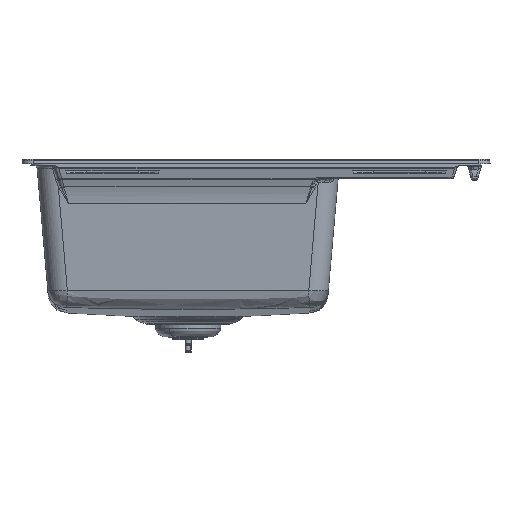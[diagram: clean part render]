
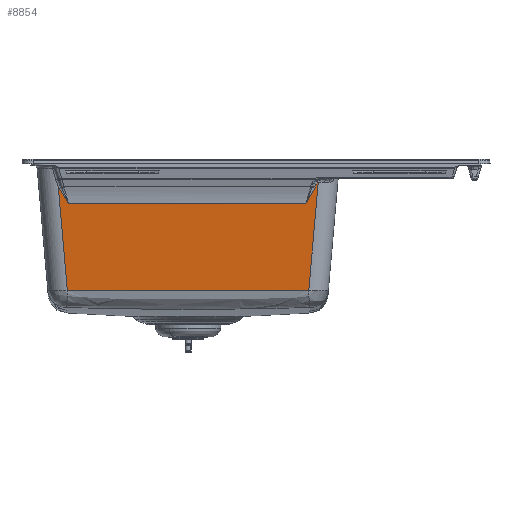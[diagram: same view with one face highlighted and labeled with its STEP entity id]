
A CAD part, left-side view. The second image highlights one B-rep face of the part: STEP entity #8854.
In plain terms, the highlighted planar face has unit normal (-0.996, 0, -0.087).
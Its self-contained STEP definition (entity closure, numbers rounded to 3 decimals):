
#2958=(
BOUNDED_CURVE()
B_SPLINE_CURVE(2,(#54219,#54220,#54221),.UNSPECIFIED.,.F.,.F.)
B_SPLINE_CURVE_WITH_KNOTS((3,3),(0.,3.116),.UNSPECIFIED.)
CURVE()
GEOMETRIC_REPRESENTATION_ITEM()
RATIONAL_B_SPLINE_CURVE((1.,0.999,1.))
REPRESENTATION_ITEM('')
);
#2959=(
BOUNDED_CURVE()
B_SPLINE_CURVE(2,(#54222,#54223,#54224),.UNSPECIFIED.,.F.,.F.)
B_SPLINE_CURVE_WITH_KNOTS((3,3),(0.,3.733),.UNSPECIFIED.)
CURVE()
GEOMETRIC_REPRESENTATION_ITEM()
RATIONAL_B_SPLINE_CURVE((1.,0.998,1.))
REPRESENTATION_ITEM('')
);
#2960=(
BOUNDED_CURVE()
B_SPLINE_CURVE(2,(#54225,#54226,#54227),.UNSPECIFIED.,.F.,.F.)
B_SPLINE_CURVE_WITH_KNOTS((3,3),(0.,1.401),.UNSPECIFIED.)
CURVE()
GEOMETRIC_REPRESENTATION_ITEM()
RATIONAL_B_SPLINE_CURVE((1.,1.,1.))
REPRESENTATION_ITEM('')
);
#8854=ADVANCED_FACE('',(#10739),#35262,.T.);
#10739=FACE_OUTER_BOUND('',#12651,.T.);
#12651=EDGE_LOOP('',(#16209,#16210,#16211,#16212,#16213,#16214,#16215,#16216,
#16217,#16218,#16219,#16220));
#16209=ORIENTED_EDGE('',*,*,#25152,.T.);
#16210=ORIENTED_EDGE('',*,*,#25108,.F.);
#16211=ORIENTED_EDGE('',*,*,#25123,.F.);
#16212=ORIENTED_EDGE('',*,*,#24878,.F.);
#16213=ORIENTED_EDGE('',*,*,#24846,.T.);
#16214=ORIENTED_EDGE('',*,*,#24850,.T.);
#16215=ORIENTED_EDGE('',*,*,#24853,.T.);
#16216=ORIENTED_EDGE('',*,*,#25153,.T.);
#16217=ORIENTED_EDGE('',*,*,#25154,.T.);
#16218=ORIENTED_EDGE('',*,*,#24793,.T.);
#16219=ORIENTED_EDGE('',*,*,#25155,.F.);
#16220=ORIENTED_EDGE('',*,*,#24796,.T.);
#24793=EDGE_CURVE('',#32389,#32390,#29664,.T.);
#24796=EDGE_CURVE('',#32393,#32394,#29665,.T.);
#24846=EDGE_CURVE('',#32425,#32428,#29691,.T.);
#24850=EDGE_CURVE('',#32428,#32430,#29693,.T.);
#24853=EDGE_CURVE('',#32430,#32392,#29695,.T.);
#24878=EDGE_CURVE('',#32425,#32444,#29707,.T.);
#25108=EDGE_CURVE('',#32559,#32396,#29830,.T.);
#25123=EDGE_CURVE('',#32444,#32559,#29833,.T.);
#25152=EDGE_CURVE('',#32394,#32396,#2958,.T.);
#25153=EDGE_CURVE('',#32392,#32387,#2959,.T.);
#25154=EDGE_CURVE('',#32387,#32389,#2960,.T.);
#25155=EDGE_CURVE('',#32393,#32390,#29853,.T.);
#29664=B_SPLINE_CURVE_WITH_KNOTS('',3,(#52622,#52623,#52624,#52625,#52626,
#52627),.UNSPECIFIED.,.F.,.F.,(4,2,4),(-2.348,0.,
0.004),.UNSPECIFIED.);
#29665=B_SPLINE_CURVE_WITH_KNOTS('',3,(#52634,#52635,#52636,#52637,#52638,
#52639),.UNSPECIFIED.,.F.,.F.,(4,2,4),(-2.376,-2.372,
0.),.UNSPECIFIED.);
#29691=B_SPLINE_CURVE_WITH_KNOTS('',3,(#52810,#52811,#52812,#52813),
 .UNSPECIFIED.,.F.,.F.,(4,4),(-0.362,0.),.UNSPECIFIED.);
#29693=B_SPLINE_CURVE_WITH_KNOTS('',3,(#52824,#52825,#52826,#52827),
 .UNSPECIFIED.,.F.,.F.,(4,4),(-0.633,0.),.UNSPECIFIED.);
#29695=B_SPLINE_CURVE_WITH_KNOTS('',3,(#52835,#52836,#52837,#52838),
 .UNSPECIFIED.,.F.,.F.,(4,4),(-3.101,0.),.UNSPECIFIED.);
#29707=B_SPLINE_CURVE_WITH_KNOTS('',1,(#52904,#52905),.UNSPECIFIED.,.F.,
 .F.,(2,2),(0.,144.049),.UNSPECIFIED.);
#29830=B_SPLINE_CURVE_WITH_KNOTS('',1,(#54020,#54021),.UNSPECIFIED.,.F.,
 .F.,(2,2),(0.,139.002),.UNSPECIFIED.);
#29833=B_SPLINE_CURVE_WITH_KNOTS('',3,(#54062,#54063,#54064,#54065,#54066,
#54067),.UNSPECIFIED.,.F.,.F.,(4,1,1,4),(0.,91.403,182.805,
319.909),.UNSPECIFIED.);
#29853=B_SPLINE_CURVE_WITH_KNOTS('',1,(#54228,#54229),.UNSPECIFIED.,.F.,
 .F.,(2,2),(-314.52,0.),.UNSPECIFIED.);
#32387=VERTEX_POINT('',#51497);
#32389=VERTEX_POINT('',#51499);
#32390=VERTEX_POINT('',#51500);
#32392=VERTEX_POINT('',#51502);
#32393=VERTEX_POINT('',#51503);
#32394=VERTEX_POINT('',#51504);
#32396=VERTEX_POINT('',#51506);
#32425=VERTEX_POINT('',#51535);
#32428=VERTEX_POINT('',#51538);
#32430=VERTEX_POINT('',#51540);
#32444=VERTEX_POINT('',#51554);
#32559=VERTEX_POINT('',#51669);
#35262=PLANE('',#36009);
#36009=AXIS2_PLACEMENT_3D('',#48362,#39067,$);
#39067=DIRECTION('',(-0.996,0.,-0.087));
#48362=CARTESIAN_POINT('',(-241.618,296.555,-16.059));
#51497=CARTESIAN_POINT('',(-239.777,-78.251,-37.097));
#51499=CARTESIAN_POINT('',(-239.667,-77.643,-38.354));
#51500=CARTESIAN_POINT('',(-237.877,-66.195,-58.815));
#51502=CARTESIAN_POINT('',(-240.075,-79.766,-33.699));
#51503=CARTESIAN_POINT('',(-237.877,248.324,-58.815));
#51504=CARTESIAN_POINT('',(-239.652,260.565,-38.529));
#51506=CARTESIAN_POINT('',(-239.893,261.992,-35.771));
#51535=CARTESIAN_POINT('',(-240.332,-82.43,-30.762));
#51538=CARTESIAN_POINT('',(-240.317,-82.113,-30.934));
#51540=CARTESIAN_POINT('',(-240.286,-81.59,-31.288));
#51554=CARTESIAN_POINT('',(-227.824,-69.923,-173.721));
#51669=CARTESIAN_POINT('',(-227.824,249.923,-173.721));
#52622=CARTESIAN_POINT('',(-239.667,-77.643,-38.354));
#52623=CARTESIAN_POINT('',(-239.056,-74.178,-45.343));
#52624=CARTESIAN_POINT('',(-238.468,-70.194,-52.066));
#52625=CARTESIAN_POINT('',(-237.879,-66.21,-58.791));
#52626=CARTESIAN_POINT('',(-237.878,-66.203,-58.803));
#52627=CARTESIAN_POINT('',(-237.877,-66.195,-58.815));
#52634=CARTESIAN_POINT('',(-237.877,248.324,-58.815));
#52635=CARTESIAN_POINT('',(-237.878,248.332,-58.803));
#52636=CARTESIAN_POINT('',(-237.879,248.34,-58.791));
#52637=CARTESIAN_POINT('',(-238.463,252.57,-52.12));
#52638=CARTESIAN_POINT('',(-239.046,256.793,-45.451));
#52639=CARTESIAN_POINT('',(-239.652,260.565,-38.529));
#52810=CARTESIAN_POINT('',(-240.332,-82.43,-30.762));
#52811=CARTESIAN_POINT('',(-240.327,-82.322,-30.815));
#52812=CARTESIAN_POINT('',(-240.322,-82.216,-30.872));
#52813=CARTESIAN_POINT('',(-240.317,-82.113,-30.934));
#52824=CARTESIAN_POINT('',(-240.317,-82.113,-30.934));
#52825=CARTESIAN_POINT('',(-240.307,-81.932,-31.042));
#52826=CARTESIAN_POINT('',(-240.297,-81.758,-31.161));
#52827=CARTESIAN_POINT('',(-240.286,-81.59,-31.288));
#52835=CARTESIAN_POINT('',(-240.286,-81.59,-31.288));
#52836=CARTESIAN_POINT('',(-240.232,-80.777,-31.904));
#52837=CARTESIAN_POINT('',(-240.157,-80.162,-32.76));
#52838=CARTESIAN_POINT('',(-240.075,-79.766,-33.699));
#52904=CARTESIAN_POINT('',(-240.332,-82.43,-30.762));
#52905=CARTESIAN_POINT('',(-227.824,-69.923,-173.721));
#54020=CARTESIAN_POINT('',(-227.824,249.923,-173.721));
#54021=CARTESIAN_POINT('',(-239.893,261.992,-35.771));
#54062=CARTESIAN_POINT('',(-227.824,-69.923,-173.721));
#54063=CARTESIAN_POINT('',(-227.749,-39.469,-174.583));
#54064=CARTESIAN_POINT('',(-227.628,21.449,-175.962));
#54065=CARTESIAN_POINT('',(-227.581,128.085,-176.504));
#54066=CARTESIAN_POINT('',(-227.711,204.242,-175.014));
#54067=CARTESIAN_POINT('',(-227.824,249.923,-173.721));
#54219=CARTESIAN_POINT('',(-239.652,260.565,-38.529));
#54220=CARTESIAN_POINT('',(-239.766,261.275,-37.226));
#54221=CARTESIAN_POINT('',(-239.893,261.992,-35.771));
#54222=CARTESIAN_POINT('',(-240.075,-79.766,-33.699));
#54223=CARTESIAN_POINT('',(-239.918,-79.011,-35.488));
#54224=CARTESIAN_POINT('',(-239.777,-78.251,-37.097));
#54225=CARTESIAN_POINT('',(-239.777,-78.251,-37.097));
#54226=CARTESIAN_POINT('',(-239.721,-77.947,-37.741));
#54227=CARTESIAN_POINT('',(-239.667,-77.643,-38.354));
#54228=CARTESIAN_POINT('',(-237.877,248.324,-58.815));
#54229=CARTESIAN_POINT('',(-237.877,-66.195,-58.815));
